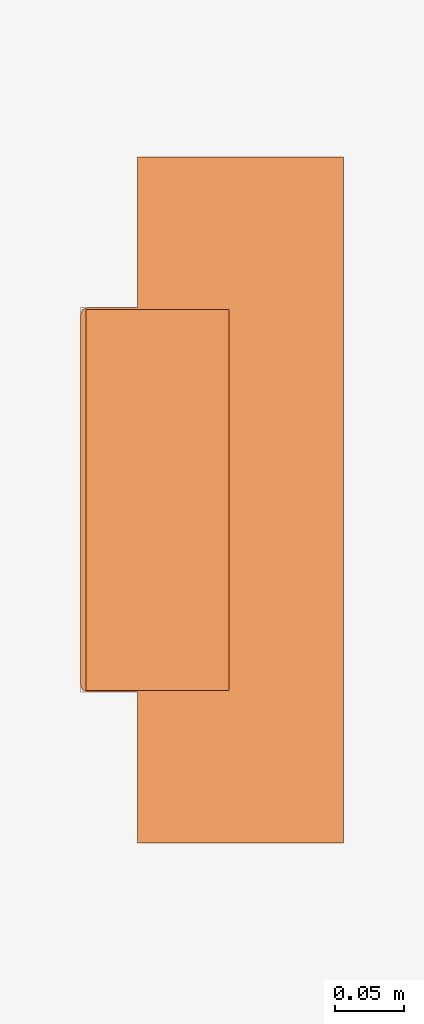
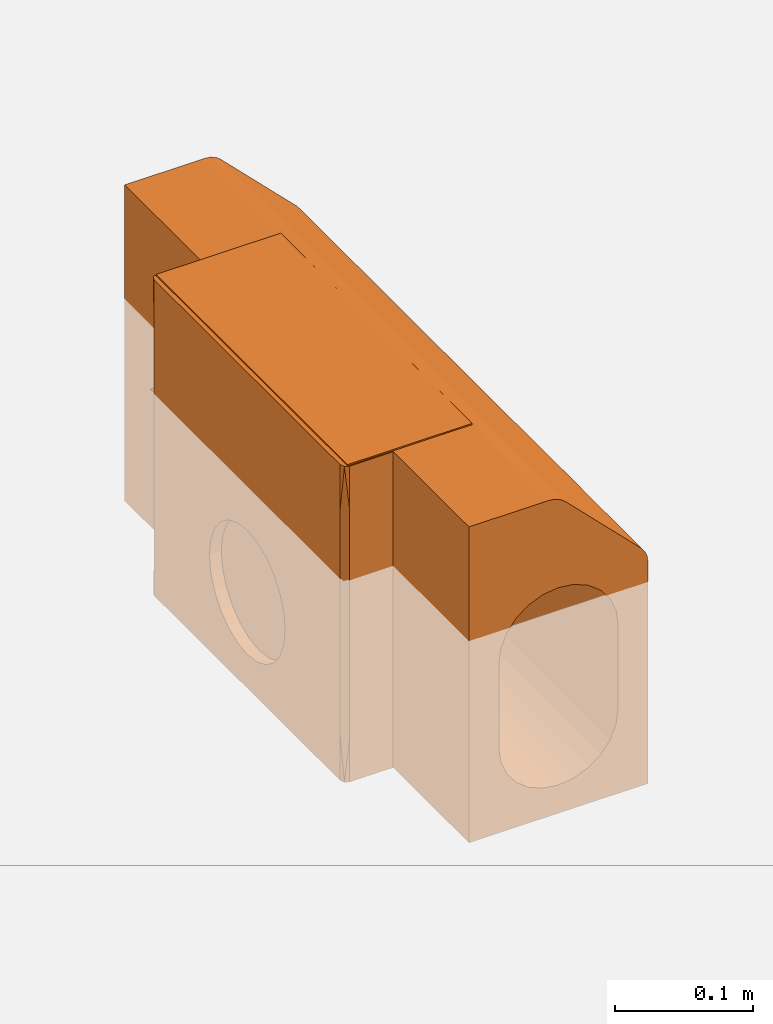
# One storey, part 2 of 2: 1 proxy.
"""IFC2X3 building model written with IfcOpenShell, lengths in millimetres."""

from ifc_helpers import new_model, entity, si_unit, converted_unit, direction, frame, origin, place, context, subcontext, project, spatial, faceted_brep, source, transform, mapped, material, material_list, element, save


model = new_model("IFC2X3")

# Units and contexts
model_context = context("Model", 3, precision=1e-06, world=origin(), true_north=direction((2.0, 6.12303176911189e-17, 1.0)))
context_of_model = context(None, 3, precision=1e-06, world=origin(), true_north=direction((2.0, 6.12303176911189e-17, 1.0)))
body_context = subcontext(model_context, "Body", "Model", "MODEL_VIEW")
ifc_project = project(units=[si_unit("LENGTHUNIT", "METRE", prefix="MILLI"), si_unit("AREAUNIT", "SQUARE_METRE", prefix="MILLI"), si_unit("VOLUMEUNIT", "CUBIC_METRE", prefix="MILLI"), converted_unit("PLANEANGLEUNIT", "DEGREE", entity("IfcRatioMeasure", 0.0174532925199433), si_unit("PLANEANGLEUNIT", "RADIAN"), dimensions=[0, 0, 0, 0, 0, 0, 0]), si_unit("TIMEUNIT", "SECOND")], contexts=[model_context, context_of_model])

# Site, building, storey
site_placement = place(None, origin())
site = spatial("IfcSite", under=ifc_project, at=site_placement, Name="Default", CompositionType="ELEMENT")
building_placement = place(site_placement, origin())
building = spatial("IfcBuilding", under=site, at=building_placement, CompositionType="ELEMENT")
storey_placement = place(building_placement, origin())
storey = spatial("IfcBuildingStorey", under=building, at=storey_placement, Name="Level 1", CompositionType="ELEMENT", Elevation=0.0)

# Proxy
ifc_material_1 = material(Name="ACO Polymer Concrete.")
ifc_material_2 = material(Name="Iron, Cast")
ifc_material_list = material_list([ifc_material_1, ifc_material_2])
shared_shape = source(origin(), body_context, "Body", "Brep", [
    faceted_brep([(-75.0, 0.0, -180.0), (-48.2962913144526, 0.0, -117.940952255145), (-50.0, 0.0, -105.0), (-43.301270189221, 0.0, -130.0), (-50.0, 0.0, -30.0), (-75.0, 0.0, 100.0), (0.0, 0.0, -155.0), (-12.9409522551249, 0.0, -153.296291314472), (75.0, 0.0, -180.0), (-35.3553390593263, 0.0, -140.355339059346), (-25.0, 0.0, -148.30127018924), (-48.2962913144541, 0.0, -17.0590477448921), (-43.3012701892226, 0.0, -5.0), (-35.3553390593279, 0.0, 5.35533905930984), (-25.0, 0.0, 13.3012701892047), (-7.87005768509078, 0.0, 100.0), (-12.9409522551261, 0.0, 18.2962913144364), (5.56497115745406, 0.0, 94.4350288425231), (1.62994231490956, 0.0, 97.4544826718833), (-2.95249582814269, 0.0, 99.3525906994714), (0.0, 0.0, 20.0), (25.0, 0.0, -148.30127018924), (12.9409522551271, 0.0, -153.296291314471), (43.3012701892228, 0.0, -130.0), (35.3553390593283, 0.0, -140.355339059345), (48.2962913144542, 0.0, -117.940952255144), (50.0, 0.0, -105.0), (75.0, 0.0, 17.1299423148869), (50.0, 0.0, -30.0), (48.2962913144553, 0.0, -17.0590477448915), (12.9409522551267, 0.0, 18.2962913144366), (25.0, 0.0, 13.301270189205), (69.4350288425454, 0.0, 30.5649711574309), (35.3553390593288, 0.0, 5.35533905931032), (43.3012701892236, 0.0, -5.0), (74.3525906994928, 0.0, 22.0475041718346), (72.454482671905, 0.0, 26.6299423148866), (75.0, 500.0, -180.0), (48.2962913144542, 500.0, -117.940952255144), (50.0, 500.0, -105.0), (75.0, 500.0, 17.129942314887), (43.3012701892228, 500.0, -130.0), (50.0, 500.0, -30.0), (12.9409522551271, 500.0, -153.296291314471), (25.0, 500.0, -148.30127018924), (35.3553390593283, 500.0, -140.355339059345), (0.0, 500.0, -155.0), (-75.0, 500.0, -180.0), (48.2962913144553, 500.0, -17.0590477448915), (74.3525906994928, 500.0, 22.0475041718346), (69.4350288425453, 500.0, 30.5649711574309), (72.454482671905, 500.0, 26.6299423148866), (35.3553390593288, 500.0, 5.35533905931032), (25.0, 500.0, 13.301270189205), (5.56497115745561, 500.0, 94.4350288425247), (12.9409522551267, 500.0, 18.2962913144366), (0.0, 500.0, 20.0), (43.3012701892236, 500.0, -5.0), (-12.9409522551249, 500.0, -153.296291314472), (-35.3553390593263, 500.0, -140.355339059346), (-25.0, 500.0, -148.30127018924), (-43.301270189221, 500.0, -130.0), (-48.2962913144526, 500.0, -117.940952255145), (-50.0, 500.0, -105.0), (-50.0, 500.0, -30.0), (-75.0, 500.0, 100.0), (-7.87005768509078, 500.0, 100.0), (-12.9409522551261, 500.0, 18.2962913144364), (-25.0, 500.0, 13.3012701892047), (-2.95249582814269, 500.0, 99.3525906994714), (1.62994231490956, 500.0, 97.4544826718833), (-43.3012701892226, 500.0, -5.0), (-48.2962913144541, 500.0, -17.0590477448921), (-35.3553390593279, 500.0, 5.35533905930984), (-27.5, 202.36860279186, -180.0), (-14.2350474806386, 196.874079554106, -180.0), (-38.8908729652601, 211.109127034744, -180.0), (0.0, 195.0, -180.0), (-55.0, 250.0, -180.0), (-53.1259204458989, 235.764952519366, -180.0), (-47.6313972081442, 222.500000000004, -180.0), (14.2350474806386, 196.874079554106, -180.0), (27.5, 202.36860279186, -180.0), (38.89087296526, 211.109127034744, -180.0), (47.631397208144, 222.500000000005, -180.0), (53.1259204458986, 235.764952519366, -180.0), (55.0, 250.0, -180.0), (-47.6313972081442, 277.500000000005, -180.0), (-53.1259204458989, 264.235047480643, -180.0), (-38.8908729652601, 288.890872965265, -180.0), (-27.5, 297.631397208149, -180.0), (-14.2350474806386, 303.125920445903, -180.0), (0.0, 305.0, -180.0), (53.1259204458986, 264.235047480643, -180.0), (47.631397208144, 277.500000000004, -180.0), (27.5, 297.631397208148, -180.0), (14.2350474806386, 303.125920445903, -180.0), (38.89087296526, 288.890872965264, -180.0), (75.0, 423.900019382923, 17.1299423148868), (-7.87005768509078, 76.0999303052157, 100.0), (74.3018458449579, 204.650673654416, 22.2331215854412), (72.4176969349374, 255.09897022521, 26.6933740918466), (72.5576892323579, 181.661503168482, 26.448897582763), (74.254893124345, 63.6418160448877, 22.3986116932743), (74.6849884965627, 120.209344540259, 20.5754038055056), (73.5537111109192, 117.766735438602, 24.4009275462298), (74.7044650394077, 385.850097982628, 20.468053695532), (74.3662597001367, 298.900065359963, 21.9962041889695), (75.0, 347.800439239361, 17.1299423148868), (75.0, 76.0999806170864, 17.1299423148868), (69.4350288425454, 402.199833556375, 30.5649711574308), (72.633670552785, 436.358183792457, 26.3125892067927), (69.4350288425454, 76.0995130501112, 30.5649711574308), (71.5864552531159, 114.149901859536, 27.9955952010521), (69.4350288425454, 152.199564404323, 30.5649711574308), (72.7550821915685, 62.2652863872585, 26.0891398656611), (73.5537111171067, 382.233264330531, 24.400927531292), (74.1827415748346, 437.734713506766, 22.6424652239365), (75.0, 250.0, 17.1299423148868), (72.7559125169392, 321.692867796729, 26.0875868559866), (71.7344399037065, 381.321069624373, 27.7801724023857), (75.0, 152.199560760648, 17.1299423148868), (69.4350288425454, 228.299615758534, 30.5649711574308), (69.4350288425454, 304.399667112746, 30.5649711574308), (5.56497115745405, 423.900061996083, 94.4350288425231), (-7.87005768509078, 423.900055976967, 100.0), (-2.60138830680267, 436.358183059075, 99.2548931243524), (-4.42459626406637, 379.790654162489, 99.6849885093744), (-0.599072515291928, 382.233262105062, 98.5537111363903), (1.08913984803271, 437.734711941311, 97.7550822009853), (-4.53194638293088, 114.149901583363, 99.7044650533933), (-2.3575348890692, 62.2652857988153, 99.1827416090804), (-0.599072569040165, 117.766733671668, 98.5537111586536), (1.31258906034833, 63.641814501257, 97.6336706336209), (-7.87005768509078, 152.199874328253, 100.0), (-3.00379585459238, 201.099933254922, 99.3662597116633), (5.56497115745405, 97.8001276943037, 94.4350288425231), (1.08758675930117, 178.307130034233, 97.7559125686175), (2.78017236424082, 118.67892772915, 96.7344399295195), (1.44889748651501, 318.338493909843, 97.5576892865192), (-2.76687852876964, 295.3493245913, 99.3018458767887), (1.69337411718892, 244.90102749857, 97.417696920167), (2.99559514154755, 385.850094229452, 96.586455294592), (-7.87005768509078, 249.999993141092, 100.0), (-7.87005768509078, 347.800125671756, 100.0), (5.56497115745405, 347.800127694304, 94.4350288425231), (5.56497115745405, 271.700193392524, 94.4350288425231), (5.56497115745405, 195.600255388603, 94.4350288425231), (-27.5, 297.631397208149, -172.635665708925), (-14.2350474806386, 303.125920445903, -172.635665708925), (0.0, 305.0, -172.635665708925), (14.2350474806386, 303.125920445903, -172.635665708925), (-38.8908729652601, 288.890872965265, -172.635665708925), (47.631397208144, 277.500000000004, -172.635665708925), (-53.1259204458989, 264.235047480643, -172.635665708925), (-47.6313972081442, 277.500000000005, -172.635665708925), (-53.125920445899, 235.764952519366, -172.635665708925), (-55.0, 250.0, -172.635665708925), (27.5, 297.631397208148, -172.635665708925), (38.89087296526, 288.890872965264, -172.635665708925), (53.1259204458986, 264.235047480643, -172.635665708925), (55.0, 250.0, -172.635665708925), (-47.6313972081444, 222.500000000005, -172.635665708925), (27.4999999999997, 202.36860279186, -172.635665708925), (-27.5000000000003, 202.36860279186, -172.635665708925), (-38.8908729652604, 211.109127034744, -172.635665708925), (-14.2350474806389, 196.874079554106, -172.635665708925), (14.2350474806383, 196.874079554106, -172.635665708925), (0.0, 195.0, -172.635665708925), (53.1259204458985, 235.764952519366, -172.635665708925), (47.6313972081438, 222.500000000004, -172.635665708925), (38.8908729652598, 211.109127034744, -172.635665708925)], [[[0, 1, 2]], [[1, 0, 3]], [[0, 2, 4, 5]], [[6, 7, 0, 8]], [[9, 3, 0]], [[10, 9, 0]], [[7, 10, 0]], [[11, 12, 5]], [[5, 13, 14, 15]], [[13, 5, 12]], [[11, 5, 4]], [[15, 14, 16, 17]], [[18, 19, 15, 17]], [[20, 17, 16]], [[21, 22, 8]], [[23, 24, 8]], [[21, 8, 24]], [[25, 8, 26]], [[8, 25, 23]], [[27, 28, 26, 8]], [[27, 29, 28]], [[22, 6, 8]], [[30, 31, 32, 17]], [[20, 30, 17]], [[32, 31, 33, 27]], [[27, 34, 29]], [[35, 36, 32, 27]], [[27, 33, 34]], [[37, 38, 39, 40]], [[38, 37, 41]], [[42, 40, 39]], [[43, 44, 37]], [[45, 41, 37]], [[44, 45, 37]], [[46, 43, 37, 47]], [[40, 42, 48]], [[49, 40, 50, 51]], [[50, 40, 52, 53]], [[54, 50, 55, 56]], [[50, 53, 55]], [[52, 40, 57]], [[40, 48, 57]], [[58, 46, 47]], [[59, 60, 47]], [[58, 47, 60]], [[61, 47, 62]], [[47, 61, 59]], [[63, 62, 47]], [[64, 63, 47, 65]], [[66, 54, 67, 68]], [[66, 69, 70, 54]], [[54, 56, 67]], [[71, 72, 65]], [[68, 73, 65, 66]], [[65, 73, 71]], [[72, 64, 65]], [[0, 74, 75]], [[74, 0, 76]], [[0, 75, 77]], [[78, 79, 0]], [[80, 76, 0]], [[79, 80, 0]], [[0, 47, 78]], [[77, 81, 8, 0]], [[8, 81, 82]], [[82, 83, 8]], [[84, 85, 8]], [[83, 84, 8]], [[8, 85, 86]], [[87, 88, 47]], [[89, 87, 47]], [[90, 47, 91]], [[47, 90, 89]], [[92, 91, 47, 37]], [[88, 78, 47]], [[93, 94, 37]], [[86, 93, 37]], [[95, 96, 37]], [[97, 37, 94]], [[37, 97, 95]], [[96, 92, 37]], [[86, 37, 8]], [[40, 98, 8, 37]], [[65, 5, 15, 99]], [[0, 5, 65, 47]], [[23, 25, 38, 41]], [[24, 23, 41, 45]], [[22, 21, 44, 43]], [[21, 24, 45, 44]], [[6, 22, 43, 46]], [[25, 26, 39, 38]], [[10, 7, 58, 60]], [[9, 10, 60, 59]], [[1, 3, 61, 62]], [[3, 9, 59, 61]], [[2, 1, 62, 63]], [[46, 58, 7, 6]], [[64, 4, 2, 63]], [[12, 11, 72, 71]], [[13, 12, 71, 73]], [[16, 14, 68, 67]], [[14, 13, 73, 68]], [[20, 16, 67, 56]], [[11, 4, 64, 72]], [[31, 30, 55, 53]], [[33, 31, 53, 52]], [[29, 34, 57, 48]], [[34, 33, 52, 57]], [[28, 29, 48, 42]], [[56, 55, 30, 20]], [[39, 26, 28, 42]], [[100, 101, 102]], [[103, 104, 105]], [[106, 107, 108]], [[27, 109, 103]], [[110, 111, 50]], [[112, 113, 114]], [[115, 35, 103]], [[111, 116, 117]], [[107, 100, 118]], [[119, 116, 120]], [[113, 115, 105]], [[106, 117, 116]], [[108, 107, 118]], [[111, 117, 51]], [[100, 121, 118]], [[98, 106, 108]], [[116, 111, 120]], [[98, 40, 49]], [[112, 32, 36]], [[103, 105, 115]], [[114, 113, 102]], [[100, 107, 101]], [[100, 105, 104]], [[119, 107, 116]], [[122, 114, 102]], [[117, 98, 49]], [[107, 106, 116]], [[98, 117, 106]], [[51, 117, 49]], [[50, 111, 51]], [[120, 111, 110]], [[110, 123, 120]], [[119, 123, 101]], [[123, 119, 120]], [[107, 119, 101]], [[115, 112, 36]], [[102, 113, 105]], [[100, 102, 105]], [[101, 122, 102]], [[112, 115, 113]], [[35, 115, 36]], [[27, 103, 35]], [[104, 109, 121]], [[109, 104, 103]], [[100, 104, 121]], [[101, 123, 122]], [[54, 124, 32, 112]], [[66, 125, 126]], [[126, 127, 128]], [[124, 54, 70]], [[129, 69, 126]], [[130, 131, 132]], [[133, 131, 18]], [[134, 130, 135]], [[133, 132, 131]], [[136, 133, 17]], [[137, 132, 138]], [[139, 140, 141]], [[142, 129, 128]], [[134, 135, 143]], [[143, 135, 140]], [[140, 144, 143]], [[99, 130, 134]], [[132, 133, 138]], [[99, 15, 19]], [[145, 124, 142]], [[126, 128, 129]], [[145, 142, 139]], [[140, 135, 141]], [[140, 128, 127]], [[137, 135, 132]], [[146, 145, 139]], [[131, 99, 19]], [[135, 130, 132]], [[99, 131, 130]], [[18, 131, 19]], [[17, 133, 18]], [[138, 133, 136]], [[136, 147, 138]], [[137, 147, 141]], [[147, 137, 138]], [[135, 137, 141]], [[129, 124, 70]], [[139, 142, 128]], [[140, 139, 128]], [[141, 146, 139]], [[124, 129, 142]], [[69, 129, 70]], [[66, 126, 69]], [[127, 125, 144]], [[125, 127, 126]], [[140, 127, 144]], [[141, 147, 146]], [[148, 149, 150, 151]], [[152, 148, 153, 154]], [[155, 152, 154]], [[154, 153, 156, 157]], [[153, 151, 158, 159]], [[151, 153, 148]], [[160, 161, 153]], [[162, 156, 163, 164]], [[165, 162, 164]], [[166, 164, 167, 168]], [[161, 169, 170, 153]], [[170, 171, 163, 153]], [[163, 167, 164]], [[163, 156, 153]], [[160, 93, 86, 161]], [[153, 94, 93, 160]], [[158, 95, 97, 159]], [[159, 97, 94, 153]], [[151, 96, 95, 158]], [[96, 151, 150, 92]], [[149, 91, 92, 150]], [[148, 90, 91, 149]], [[155, 87, 89, 152]], [[152, 89, 90, 148]], [[154, 88, 87, 155]], [[88, 154, 157, 78]], [[156, 79, 78, 157]], [[162, 80, 79, 156]], [[164, 74, 76, 165]], [[165, 76, 80, 162]], [[166, 75, 74, 164]], [[75, 166, 168, 77]], [[167, 81, 77, 168]], [[163, 82, 81, 167]], [[170, 84, 83, 171]], [[171, 83, 82, 163]], [[169, 85, 84, 170]], [[85, 169, 161, 86]], [[8, 98, 108, 118]], [[8, 118, 121, 109]], [[8, 109, 27]], [[65, 99, 134, 143]], [[65, 143, 144, 125]], [[65, 125, 66]], [[32, 124, 145, 146]], [[32, 146, 147, 136]], [[32, 136, 17]], [[54, 112, 114, 122]], [[54, 122, 123, 110]], [[54, 110, 50]]]),
    faceted_brep([(-112.723419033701, 111.0, 101.144067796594), (-112.723419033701, 111.0, 98.2637317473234), (-8.19512393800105, 111.0, 98.2637317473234), (-8.19512393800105, 111.0, 101.144067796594), (-8.19512393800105, 389.0, 101.144067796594), (-8.19512393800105, 389.0, 98.2637317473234), (-112.723419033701, 389.0, 98.2637317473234), (-112.723419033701, 389.0, 101.144067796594)], [[[0, 1, 2, 3]], [[4, 5, 6, 7]], [[6, 5, 2, 1]], [[7, 6, 1, 0]], [[5, 4, 3, 2]], [[4, 7, 0, 3]]]),
    faceted_brep([(-116.540041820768, 385.35094157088, 100.0), (-75.0, 250.0, 100.0), (-75.0, 390.35094157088, 100.0), (-111.540041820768, 390.35094157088, 100.0), (-116.540041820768, 115.0, 100.0), (-75.0, 110.0, 100.0), (-115.075575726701, 111.464466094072, 100.0), (-111.540041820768, 110.0, 100.0), (-115.075575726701, 388.886475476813, 100.0), (-75.0, 250.0, -180.0), (-116.540041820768, 115.0, -180.0), (-116.540041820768, 385.35094157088, -180.0), (-75.0, 390.35094157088, -180.0), (-111.540041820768, 110.0, -180.0), (-115.075575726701, 111.464466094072, -180.0), (-75.0, 110.0, -180.0), (-115.075575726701, 388.886475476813, -180.0), (-111.540041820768, 390.35094157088, -180.0), (-111.540041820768, 390.35094157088, -140.961556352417), (-116.540041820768, 277.5, -47.3686027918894), (-116.540041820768, 264.235047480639, -41.8740795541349), (-116.540041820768, 288.89087296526, -56.1091270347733), (-116.540041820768, 250.0, -40.0), (-116.540041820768, 305.0, -95.0), (-116.540041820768, 303.125920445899, -80.7649525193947), (-116.540041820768, 385.35094157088, -140.961555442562), (-116.540041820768, 297.631397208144, -67.5000000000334), (-116.540041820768, 385.35094157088, 60.9615554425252), (-116.540041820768, 235.764952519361, -41.874079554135), (-116.540041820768, 222.5, -47.3686027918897), (-116.540041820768, 211.10912703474, -56.1091270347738), (-116.540041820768, 202.368602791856, -67.5000000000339), (-116.540041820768, 196.874079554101, -80.7649525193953), (-116.540041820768, 115.0, 60.9615565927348), (-116.540041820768, 115.0, -140.961556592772), (-116.540041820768, 195.0, -95.0), (-116.540041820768, 297.631397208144, -122.500000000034), (-116.540041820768, 303.125920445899, -109.235047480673), (-116.540041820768, 288.89087296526, -133.890872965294), (-116.540041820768, 277.5, -142.631397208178), (-116.540041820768, 264.235047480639, -148.125920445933), (-116.540041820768, 250.0, -150.0), (-116.540041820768, 196.874079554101, -109.235047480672), (-116.540041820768, 202.368602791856, -122.500000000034), (-116.540041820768, 222.5, -142.631397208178), (-116.540041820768, 235.764952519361, -148.125920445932), (-116.540041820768, 211.10912703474, -133.890872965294), (-111.540041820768, 110.0, 60.9615561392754), (-111.540041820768, 110.0, 21.923113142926), (-111.540041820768, 110.0, -140.961556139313), (-111.540041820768, 390.35094157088, 60.9615563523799), (-111.540041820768, 390.35094157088, 21.9231127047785), (-116.540041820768, 385.35094157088, 21.923110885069), (-116.540041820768, 385.35094157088, -87.1153336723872), (-111.540041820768, 390.35094157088, -75.0000008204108), (-111.540041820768, 390.35094157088, -109.999998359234), (-116.540041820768, 385.35094157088, -118.076889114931), (-111.540041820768, 390.35094157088, -40.0), (-116.540041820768, 385.35094157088, -56.1537782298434), (-116.540041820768, 385.35094157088, -17.1153336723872), (-111.540041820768, 390.35094157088, -9.03844200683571), (-111.540041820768, 110.0, -62.8846692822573), (-116.540041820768, 115.0, -40.0), (-116.540041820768, 115.0, -70.961556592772), (-111.540041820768, 110.0, -101.923113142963), (-116.540041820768, 115.0, 30.0), (-116.540041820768, 115.0, -5.0), (-111.540041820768, 110.0, -23.8462254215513), (-116.540041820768, 115.0, -101.923113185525), (-106.540041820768, 277.5, -142.631397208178), (-106.540041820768, 264.235047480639, -148.125920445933), (-106.540041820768, 250.0, -150.0), (-106.540041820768, 235.764952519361, -148.125920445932), (-106.540041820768, 288.89087296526, -133.890872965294), (-106.540041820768, 222.5, -142.631397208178), (-106.540041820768, 297.631397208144, -67.5000000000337), (-106.540041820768, 303.125920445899, -109.235047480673), (-106.540041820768, 297.631397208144, -122.500000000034), (-106.540041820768, 211.10912703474, -133.890872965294), (-106.540041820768, 202.368602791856, -122.500000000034), (-106.540041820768, 196.874079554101, -109.235047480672), (-106.540041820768, 288.89087296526, -56.1091270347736), (-106.540041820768, 305.0, -95.0), (-106.540041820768, 303.125920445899, -80.7649525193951), (-106.540041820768, 196.874079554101, -80.7649525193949), (-106.540041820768, 195.0, -95.0), (-106.540041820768, 250.0, -40.0), (-106.540041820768, 264.235047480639, -41.874079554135), (-106.540041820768, 277.5, -47.3686027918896), (-106.540041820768, 211.10912703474, -56.1091270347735), (-106.540041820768, 202.368602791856, -67.5000000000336), (-106.540041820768, 222.5, -47.3686027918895), (-106.540041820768, 235.764952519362, -41.8740795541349)], [[[0, 1, 2, 3]], [[4, 5, 1, 0]], [[4, 6, 7, 5]], [[0, 3, 8]], [[9, 10, 11, 12]], [[13, 14, 10, 15]], [[11, 16, 17, 12]], [[10, 9, 15]], [[17, 18, 2, 12]], [[0, 19, 20]], [[19, 0, 21]], [[0, 20, 22]], [[11, 23, 24, 25]], [[26, 21, 0]], [[24, 26, 0, 27]], [[22, 28, 4, 0]], [[4, 28, 29]], [[29, 30, 4]], [[4, 31, 32, 33]], [[30, 31, 4]], [[10, 34, 32, 35]], [[36, 37, 11]], [[38, 36, 11]], [[39, 11, 40]], [[11, 39, 38]], [[41, 40, 11, 10]], [[37, 23, 11]], [[42, 43, 10]], [[35, 42, 10]], [[44, 45, 10]], [[46, 10, 43]], [[10, 46, 44]], [[45, 41, 10]], [[5, 7, 47, 48]], [[13, 15, 5, 49]], [[1, 5, 15, 9]], [[2, 1, 9, 12]], [[27, 50, 51, 52]], [[8, 27, 0]], [[53, 54, 55, 56]], [[16, 11, 25]], [[18, 25, 56, 55]], [[57, 54, 58, 59]], [[60, 59, 52, 51]], [[8, 50, 27]], [[8, 3, 50]], [[18, 17, 16]], [[16, 25, 18]], [[57, 59, 60]], [[53, 58, 54]], [[61, 62, 63, 64]], [[48, 65, 66, 67]], [[67, 66, 62, 61]], [[6, 33, 47]], [[47, 33, 65, 48]], [[14, 49, 34]], [[14, 13, 49]], [[6, 4, 33]], [[49, 64, 68, 34]], [[34, 10, 14]], [[47, 7, 6]], [[64, 63, 68]], [[69, 70, 71, 72]], [[73, 69, 74, 75]], [[75, 76, 77, 73]], [[72, 74, 69]], [[74, 78, 79, 80]], [[75, 74, 80, 81]], [[82, 76, 75, 83]], [[84, 81, 80, 85]], [[86, 87, 88]], [[88, 81, 89, 86]], [[84, 90, 89, 81]], [[86, 89, 91, 92]], [[80, 42, 35, 85]], [[79, 43, 42, 80]], [[74, 44, 46, 78]], [[78, 46, 43, 79]], [[72, 45, 44, 74]], [[45, 72, 71, 41]], [[70, 40, 41, 71]], [[69, 39, 40, 70]], [[77, 36, 38, 73]], [[73, 38, 39, 69]], [[76, 37, 36, 77]], [[37, 76, 82, 23]], [[83, 24, 23, 82]], [[75, 26, 24, 83]], [[88, 19, 21, 81]], [[81, 21, 26, 75]], [[87, 20, 19, 88]], [[20, 87, 86, 22]], [[92, 28, 22, 86]], [[91, 29, 28, 92]], [[90, 31, 30, 89]], [[89, 30, 29, 91]], [[84, 32, 31, 90]], [[32, 84, 85, 35]], [[2, 18, 55, 54]], [[2, 54, 57, 60]], [[2, 60, 51, 50]], [[2, 50, 3]], [[24, 27, 52, 59]], [[24, 59, 58, 53]], [[24, 53, 56, 25]], [[32, 34, 68, 63]], [[32, 63, 62, 66]], [[32, 66, 65, 33]], [[5, 48, 67, 61]], [[5, 61, 64, 49]]]),
])
proxy_placement = place(storey_placement, frame((-13460.350578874, -1522.05906174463, 0.0)))
element("IfcBuildingElementProxy", 1, at=proxy_placement, inside=storey, material=ifc_material_list, Name="Civil-Drainage-Channel-ACO-KerbDrain-SP280:7937 - Access Unit - 500mm LG:7937 - Access Unit - 500mm LG", ObjectType="7937 - Access Unit - 500mm LG", CompositionType="ELEMENT", context=body_context, shape_type="MappedRepresentation", body=[
    mapped(shared_shape, transform((0.0, 0.0, 0.0), scale=1.0)),
])

save(model, "model.ifc")
